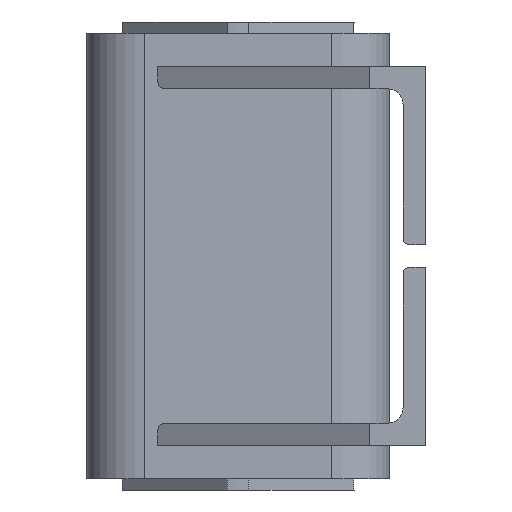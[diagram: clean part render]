
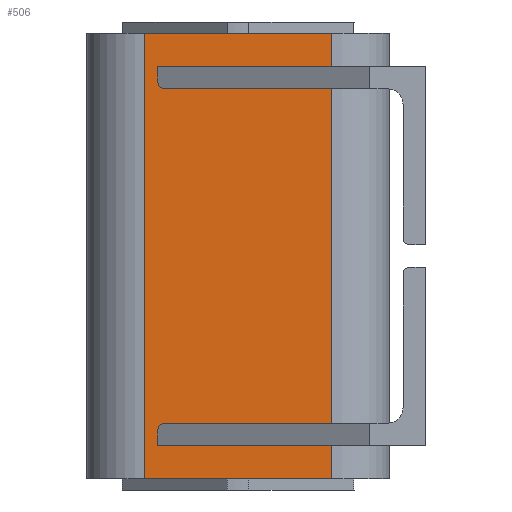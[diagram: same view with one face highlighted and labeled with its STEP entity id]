
A CAD part, front view. The second image highlights one B-rep face of the part: STEP entity #506.
In plain terms, the highlighted planar face has unit normal (0, -1, 0).
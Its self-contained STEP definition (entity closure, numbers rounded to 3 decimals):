
#448=CARTESIAN_POINT('',(42.0,-68.,200.0));
#449=VERTEX_POINT('',#448);
#457=CARTESIAN_POINT('',(42.0,-68.,0.0));
#458=VERTEX_POINT('',#457);
#459=CARTESIAN_POINT('',(42.0,-68.,0.0));
#460=DIRECTION('',(0.0,0.0,1.0));
#461=VECTOR('',#460,200.0);
#462=LINE('',#459,#461);
#463=EDGE_CURVE('',#458,#449,#462,.T.);
#476=CARTESIAN_POINT('',(42.0,-68.,0.0));
#477=DIRECTION('',(0.0,-1.0,0.0));
#478=DIRECTION('',(0.0,0.0,-1.0));
#479=AXIS2_PLACEMENT_3D('',#476,#477,#478);
#480=PLANE('',#479);
#481=CARTESIAN_POINT('',(-42.0,-68.0,200.0));
#482=VERTEX_POINT('',#481);
#483=CARTESIAN_POINT('',(42.0,-68.,200.0));
#484=DIRECTION('',(-1.0,0.0,0.0));
#485=VECTOR('',#484,84.0);
#486=LINE('',#483,#485);
#487=EDGE_CURVE('',#449,#482,#486,.T.);
#488=ORIENTED_EDGE('',*,*,#487,.T.);
#489=CARTESIAN_POINT('',(-42.0,-68.0,0.0));
#490=VERTEX_POINT('',#489);
#491=CARTESIAN_POINT('',(-42.0,-68.0,0.0));
#492=DIRECTION('',(0.0,0.0,1.0));
#493=VECTOR('',#492,200.0);
#494=LINE('',#491,#493);
#495=EDGE_CURVE('',#490,#482,#494,.T.);
#496=ORIENTED_EDGE('',*,*,#495,.F.);
#497=CARTESIAN_POINT('',(-42.0,-68.0,0.0));
#498=DIRECTION('',(1.0,0.0,0.0));
#499=VECTOR('',#498,84.0);
#500=LINE('',#497,#499);
#501=EDGE_CURVE('',#490,#458,#500,.T.);
#502=ORIENTED_EDGE('',*,*,#501,.T.);
#503=ORIENTED_EDGE('',*,*,#463,.T.);
#504=EDGE_LOOP('',(#488,#496,#502,#503));
#505=FACE_OUTER_BOUND('',#504,.T.);
#506=ADVANCED_FACE('',(#505),#480,.T.);
